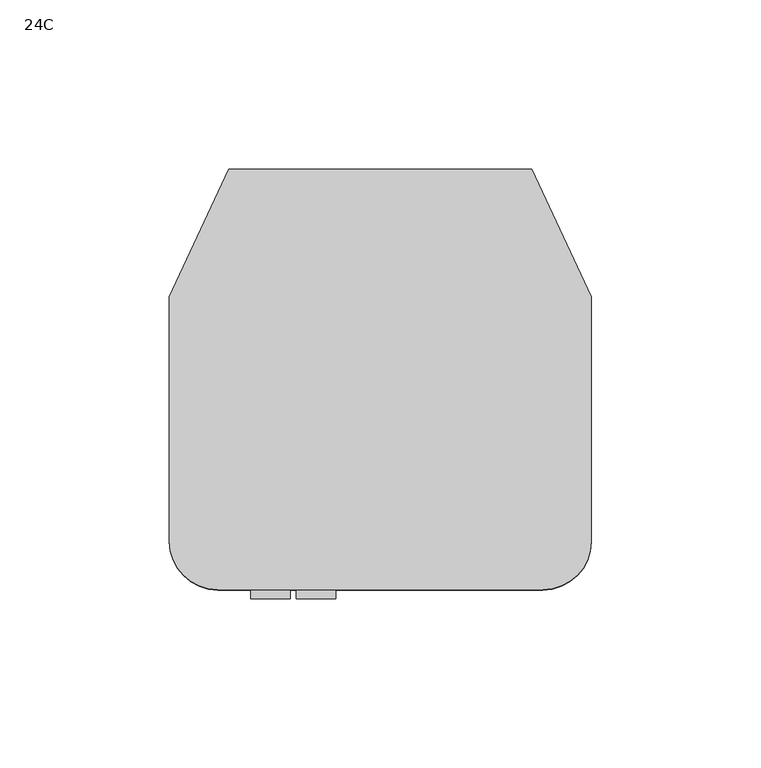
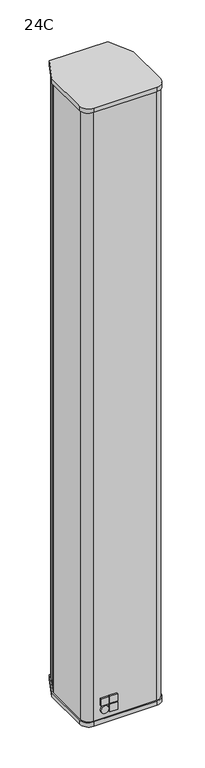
"""IFC4 building model written with IfcOpenShell, lengths in millimetres: proxy geometry, d&b xC-Series 24C Column : 24C."""

import ifcopenshell
import ifcopenshell.guid

model = None  # the IFC model being written
_history = None  # IfcOwnerHistory: only IFC2X3 demands one
_inside = {}  # id of a spatial element -> (the spatial element, [elements in it])
_under = {}  # id of a project, library or spatial element -> (it, [spatial elements below it])
_declared = {}  # id of a project -> (the project, [libraries it declares])
_typed = {}  # id of a type object -> (the type object, [elements of that type])
_made_of = {}  # id of a material, layer set ... -> (it, [elements and type objects made of it])


def new_model(schema):
    """Start an empty IFC model of exactly this schema.

    Asked for "IFC4X3", IfcOpenShell would pick the latest addendum, in which some entities
    have other attributes; the version numbers below select the first issue.
    IFC2X3 requires an IfcOwnerHistory on every rooted entity: one is made here for all.
    """
    global model, _history
    if schema == "IFC4X3":
        model = ifcopenshell.file(schema_version=(4, 3, 0, 0))
    else:
        model = ifcopenshell.file(schema=schema)
    _inside.clear()
    _under.clear()
    _declared.clear()
    _typed.clear()
    _made_of.clear()
    _history = None
    if model.schema == "IFC2X3":
        org = make("IfcOrganization", Name="unknown")
        user = make(
            "IfcPersonAndOrganization",
            ThePerson=make("IfcPerson", FamilyName="unknown"),
            TheOrganization=org,
        )
        app = make(
            "IfcApplication",
            ApplicationDeveloper=org,
            Version="unknown",
            ApplicationFullName="unknown",
            ApplicationIdentifier="unknown",
        )
        _history = make(
            "IfcOwnerHistory",
            OwningUser=user,
            OwningApplication=app,
            ChangeAction="ADDED",
            CreationDate=0,
        )
    return model


def make(cls, **values):
    """One entity of the class cls with the attributes given. An attribute that is None is left unset."""
    return model.create_entity(
        cls, **{name: value for name, value in values.items() if value is not None}
    )


def rooted(cls, **values):
    """An entity with a GlobalId (a new one), such as an element, a storey or a relation."""
    return make(cls, GlobalId=ifcopenshell.guid.new(), OwnerHistory=_history, **values)


def si_unit(unit_type, name, prefix=None):
    """IfcSIUnit, for example si_unit("LENGTHUNIT", "METRE", prefix="MILLI")."""
    return make("IfcSIUnit", UnitType=unit_type, Prefix=prefix, Name=name)


def assignment(units):
    """IfcUnitAssignment: the units of a project."""
    return None if units is None else make("IfcUnitAssignment", Units=units)


def point(xyz):
    """IfcCartesianPoint."""
    return None if xyz is None else make("IfcCartesianPoint", Coordinates=xyz)


def direction(xyz):
    """IfcDirection."""
    return None if xyz is None else make("IfcDirection", DirectionRatios=xyz)


def frame(location, z_axis=None, x_axis=None):
    """IfcAxis2Placement3D, a coordinate frame: its origin and axes. An axis left out is left unset."""
    return make(
        "IfcAxis2Placement3D",
        Location=point(location),
        Axis=direction(z_axis),
        RefDirection=direction(x_axis),
    )


def frame_2d(location, x_axis=None):
    """IfcAxis2Placement2D, a coordinate frame in the plane: its origin and x axis."""
    return make(
        "IfcAxis2Placement2D", Location=point(location), RefDirection=direction(x_axis)
    )


def origin():
    """The frame at (0, 0, 0) with its axes left unset."""
    return frame((0.0, 0.0, 0.0))


def place(relative_to, where):
    """IfcLocalPlacement: puts the frame where relative to a parent placement (None: the world)."""
    return make(
        "IfcLocalPlacement", PlacementRelTo=relative_to, RelativePlacement=where
    )


def context(
    kind, dimensions, precision=None, world=None, true_north=None, identifier=None
):
    """IfcGeometricRepresentationContext, for example the 3D "Model" context."""
    return make(
        "IfcGeometricRepresentationContext",
        ContextIdentifier=identifier,
        ContextType=kind,
        CoordinateSpaceDimension=dimensions,
        Precision=precision,
        WorldCoordinateSystem=world,
        TrueNorth=true_north,
    )


def project(units=None, contexts=None):
    """IfcProject with its units and contexts."""
    return rooted(
        "IfcProject",
        Name="project",
        RepresentationContexts=contexts,
        UnitsInContext=assignment(units),
    )


def spatial(cls, under=None, at=None, **own):
    """A site, building, storey or space (cls), placed at a placement, below another one or the project."""
    s = rooted(cls, ObjectPlacement=at, **own)
    if under is not None:
        _under.setdefault(under.id(), (under, []))[1].append(s)
    return s


def polyline(points):
    """IfcPolyline through the points."""
    return make("IfcPolyline", Points=[point(p) for p in points])


def circle_curve(where, radius):
    """IfcCircle in the frame where."""
    return make("IfcCircle", Position=where, Radius=radius)


def trimmed(basis, trim1, trim2, sense, master):
    """IfcTrimmedCurve: the piece of a basis curve between two trims."""
    return make(
        "IfcTrimmedCurve",
        BasisCurve=basis,
        Trim1=trim1,
        Trim2=trim2,
        SenseAgreement=sense,
        MasterRepresentation=master,
    )


def segment(curve, same_sense, transition):
    """IfcCompositeCurveSegment."""
    return make(
        "IfcCompositeCurveSegment",
        Transition=transition,
        SameSense=same_sense,
        ParentCurve=curve,
    )


def composite_curve(segments, self_intersect=None):
    """IfcCompositeCurve: segments joined end to end."""
    return make("IfcCompositeCurve", Segments=segments, SelfIntersect=self_intersect)


def outline(outer, holes=None, kind="AREA"):
    """IfcArbitraryClosedProfileDef: a profile drawn as a closed curve; with holes, ...WithVoids."""
    if holes is None:
        return make("IfcArbitraryClosedProfileDef", ProfileType=kind, OuterCurve=outer)
    return make(
        "IfcArbitraryProfileDefWithVoids",
        ProfileType=kind,
        OuterCurve=outer,
        InnerCurves=holes,
    )


def extrude(swept, where, along, depth):
    """IfcExtrudedAreaSolid: the profile swept, set in the frame where, extruded along a direction by depth."""
    return make(
        "IfcExtrudedAreaSolid",
        SweptArea=swept,
        Position=where,
        ExtrudedDirection=direction(along),
        Depth=depth,
    )


def shape(context_of_items, identifier, shape_type, items):
    """IfcShapeRepresentation: the items that make up one representation, for example the "Body"."""
    return make(
        "IfcShapeRepresentation",
        ContextOfItems=context_of_items,
        RepresentationIdentifier=identifier,
        RepresentationType=shape_type,
        Items=items,
    )


def source(mapping_origin, context_of_items, identifier, shape_type, items):
    """IfcRepresentationMap: a shape defined once, which mapped items show again and again."""
    return make(
        "IfcRepresentationMap",
        MappingOrigin=mapping_origin,
        MappedRepresentation=shape(context_of_items, identifier, shape_type, items),
    )


def transform(
    local_origin,
    x_axis=None,
    y_axis=None,
    z_axis=None,
    scale=None,
    scale2=None,
    scale3=None,
    uniform=True,
):
    """IfcCartesianTransformationOperator3D, or its non-uniform kind. x_axis, y_axis, z_axis: its Axis1, 2, 3."""
    if uniform:
        return make(
            "IfcCartesianTransformationOperator3D",
            Axis1=direction(x_axis),
            Axis2=direction(y_axis),
            LocalOrigin=point(local_origin),
            Scale=scale,
            Axis3=direction(z_axis),
        )
    return make(
        "IfcCartesianTransformationOperator3DnonUniform",
        Axis1=direction(x_axis),
        Axis2=direction(y_axis),
        LocalOrigin=point(local_origin),
        Scale=scale,
        Axis3=direction(z_axis),
        Scale2=scale2,
        Scale3=scale3,
    )


def mapped(mapping_source, mapping_target):
    """IfcMappedItem: shows the shape of a source again, moved by a transform."""
    return make(
        "IfcMappedItem", MappingSource=mapping_source, MappingTarget=mapping_target
    )


def made_of(thing, what):
    """Note that an element or type object is made of a material, layer set ...; save() writes the relation."""
    if what is not None:
        _made_of.setdefault(what.id(), (what, []))[1].append(thing)
    return thing


def element(
    cls,
    number,
    at=None,
    inside=None,
    cuts=None,
    type_object=None,
    material=None,
    context=None,
    identifier="Body",
    shape_type=None,
    held_by="IfcProductDefinitionShape",
    body=None,
    shapes=None,
    **own,
):
    """One element of the class cls, such as IfcWall. Its Tag is "e" and its number.

    at: its placement. inside: the storey or other place that contains it. cuts: it is an
    opening in that element (IfcRelVoidsElement). A single representation is given by context,
    identifier, shape_type and body (its items); several are given by shapes. held_by: the class
    of the entity that holds the representations. save() writes the other relations.
    """
    e = rooted(cls, Tag="e%d" % number, ObjectPlacement=at, **own)
    if body is not None:
        shapes = [shape(context, identifier, shape_type, body)]
    if shapes is not None:
        e.Representation = make(held_by, Representations=shapes)
    if inside is not None:
        _inside.setdefault(inside.id(), (inside, []))[1].append(e)
    if cuts is not None:
        rooted(
            "IfcRelVoidsElement", RelatingBuildingElement=cuts, RelatedOpeningElement=e
        )
    if type_object is not None:
        _typed.setdefault(type_object.id(), (type_object, []))[1].append(e)
    return made_of(e, material)


def aggregate(whole, parts):
    """IfcRelAggregates: a whole, such as a stair, and the parts it consists of."""
    return rooted("IfcRelAggregates", RelatingObject=whole, RelatedObjects=parts)


def save(model, path):
    """Write the relations noted so far, then the file.

    IfcRelAggregates (storeys below a building ...), IfcRelContainedInSpatialStructure (elements
    in a storey), IfcRelDefinesByType, IfcRelAssociatesMaterial and IfcRelDeclares: one each for
    every whole, place, type object, material and project.
    """
    for whole, parts in _under.values():
        aggregate(whole, parts)
    for where, things in _inside.values():
        rooted(
            "IfcRelContainedInSpatialStructure",
            RelatedElements=things,
            RelatingStructure=where,
        )
    for kind, things in _typed.values():
        rooted("IfcRelDefinesByType", RelatedObjects=things, RelatingType=kind)
    for what, things in _made_of.values():
        rooted("IfcRelAssociatesMaterial", RelatedObjects=things, RelatingMaterial=what)
    for by, libraries in _declared.values():
        rooted("IfcRelDeclares", RelatingContext=by, RelatedDefinitions=libraries)
    model.write(path)


def plane_surface(at):
    """IfcPlane: the flat surface through the origin of the frame at, square to its z axis."""
    return make("IfcPlane", Position=at)


def cylinder_surface(at, radius):
    """IfcCylindricalSurface: all points at the distance radius from the z axis of the frame at."""
    return make("IfcCylindricalSurface", Position=at, Radius=radius)


def revolved_surface(curve, axis_point, axis_direction):
    """IfcSurfaceOfRevolution: the curve turned about the line through axis_point along axis_direction."""
    return make(
        "IfcSurfaceOfRevolution",
        SweptCurve=make("IfcArbitraryOpenProfileDef", ProfileType="CURVE", Curve=curve),
        AxisPosition=make("IfcAxis1Placement", Location=point(axis_point), Axis=direction(axis_direction)),
    )


def advanced_brep(points, edges, surfaces, faces):
    """IfcAdvancedBrep: a solid bounded by faces that lie on surfaces and meet in shared edges.

    An edge is (start, end): straight between two places in points (the first is 0);
    or (start, end, curve); or (start, end, curve, False) where it runs against its curve.
    A face is (place in surfaces, loops), or (place, loops, False) where it looks against
    its surface's normal. A loop lists edges by number (the first is 1), with a minus sign
    where the edge is run from its end to its start. The first loop is the outer one.
    """
    corners = [point(p) for p in points]
    vertices = [make("IfcVertexPoint", VertexGeometry=c) for c in corners]
    made = []
    for start, end, *more in edges:
        made.append(
            make(
                "IfcEdgeCurve",
                EdgeStart=vertices[start],
                EdgeEnd=vertices[end],
                EdgeGeometry=more[0] if more else make("IfcPolyline", Points=[corners[start], corners[end]]),
                SameSense=more[1] if len(more) > 1 else True,
            )
        )
    hull = []
    for where, loops, *sense in faces:
        bounds = []
        for j, loop in enumerate(loops):
            ring = [make("IfcOrientedEdge", EdgeElement=made[abs(k) - 1], Orientation=k > 0) for k in loop]
            bounds.append(
                make(
                    "IfcFaceOuterBound" if j == 0 else "IfcFaceBound",
                    Bound=make("IfcEdgeLoop", EdgeList=ring),
                    Orientation=True,
                )
            )
        hull.append(make("IfcAdvancedFace", Bounds=bounds, FaceSurface=surfaces[where], SameSense=sense[0] if sense else True))
    return make("IfcAdvancedBrep", Outer=make("IfcClosedShell", CfsFaces=hull))


def proxy_24c_96e45ba7(model_context):
    return source(origin(), model_context, "Body", "SolidModel", [
        extrude(outline(polyline([(45.5615282, 50.1303765), (47.8272976, 51.1869221), (54.1607261, 37.604841), (51.8949566, 36.5482954), (45.5615282, 50.1303765)])), frame((0.0, 0.0, -493.0), z_axis=(0.0, 0.0, 1.0), x_axis=(1.0, 0.0, 0.0)), (0.0, 0.0, 1.0), 986.0),
        extrude(outline(polyline([(-45.5615282, 50.1303765), (-51.8949566, 36.5482954), (-54.1607261, 37.604841), (-47.8272976, 51.1869221), (-45.5615282, 50.1303765)])), frame((0.0, 0.0, -493.0), z_axis=(0.0, 0.0, 1.0), x_axis=(1.0, 0.0, 0.0)), (0.0, 0.0, 1.0), 986.0),
        advanced_brep(
        [(-32.05, 60.25, 493.0), (-43.601115, 60.25, 493.0), (-47.8272976, 51.1869221, 493.0), (-45.5615282, 50.1303765, 493.0), (-51.8949566, 36.5482954, 493.0), (-54.1607261, 37.604841, 493.0), (-60.5, 24.0102242, 493.0), (-60.5, -47.962132, 493.0), (-48.212132, -60.25, 493.0), (48.212132, -60.25, 493.0), (60.5, -47.962132, 493.0), (60.5, 24.0102242, 493.0), (54.1607261, 37.604841, 493.0), (51.8949566, 36.5482954, 493.0), (45.5615282, 50.1303765, 493.0), (47.8272976, 51.1869221, 493.0), (43.601115, 60.25, 493.0), (32.05, 60.25, 493.0), (32.05, 58.0499992, 493.0), (36.2500003, 58.0499992, 493.0), (36.2500003, 55.2955341, 493.0), (32.2044662, 51.25, 493.0), (23.7999989, 51.25, 493.0), (19.7499997, 55.2999992, 493.0), (19.7499997, 58.0499992, 493.0), (23.95, 58.0499992, 493.0), (23.95, 60.25, 493.0), (15.0, 60.25, 493.0), (15.0, 50.25, 493.0), (-15.0, 50.25, 493.0), (-15.0, 60.25, 493.0), (-23.95, 60.25, 493.0), (-23.95, 58.0499992, 493.0), (-19.7499997, 58.0499992, 493.0), (-19.7499997, 55.2999992, 493.0), (-23.7999989, 51.25, 493.0), (-32.2044662, 51.25, 493.0), (-36.2500003, 55.2955341, 493.0), (-36.2500003, 58.0499992, 493.0), (-32.05, 58.0499992, 493.0), (-32.05, 60.25, -493.0), (-32.05, 58.0499992, -493.0), (-36.2500003, 58.0499992, -493.0), (-36.2500003, 55.2955341, -493.0), (-32.2044662, 51.25, -493.0), (-23.7999989, 51.25, -493.0), (-19.7499997, 55.2999992, -493.0), (-19.7499997, 58.0499992, -493.0), (-23.95, 58.0499992, -493.0), (-23.95, 60.25, -493.0), (23.95, 60.25, -493.0), (23.95, 58.0499992, -493.0), (19.7499997, 58.0499992, -493.0), (19.7499997, 55.2999992, -493.0), (23.7999989, 51.25, -493.0), (32.2044662, 51.25, -493.0), (36.2500003, 55.2955341, -493.0), (36.2500003, 58.0499992, -493.0), (32.05, 58.0499992, -493.0), (32.05, 60.25, -493.0), (43.601115, 60.25, -493.0), (47.8272976, 51.1869221, -493.0), (45.5615282, 50.1303765, -493.0), (51.8949566, 36.5482954, -493.0), (54.1607261, 37.604841, -493.0), (60.5, 24.0102242, -493.0), (60.5, -47.962132, -493.0), (48.212132, -60.25, -493.0), (-48.212132, -60.25, -493.0), (-60.5, -47.962132, -493.0), (-60.5, 24.0102242, -493.0), (-54.1607261, 37.604841, -493.0), (-51.8949566, 36.5482954, -493.0), (-45.5615282, 50.1303765, -493.0), (-47.8272976, 51.1869221, -493.0), (-43.601115, 60.25, -493.0), (-15.0, 60.25, 461.5), (-12.5, 60.25, 459.0), (12.5, 60.25, 459.0), (15.0, 60.25, 461.5), (-3.375, 60.25, -263.5), (-3.375, 60.25, -365.0), (3.375, 60.25, -365.0), (3.375, 60.25, -263.5), (15.0, 50.25, 461.5), (12.5, 50.25, 459.0), (-12.5, 50.25, 459.0), (-15.0, 50.25, 461.5), (-3.375, 57.0, -365.0), (-3.375, 57.0, -263.5), (3.375, 57.0, -263.5), (3.375, 57.0, -365.0)],
        [
            (0, 1),
            (1, 2),
            (2, 3),
            (3, 4),
            (4, 5),
            (5, 6),
            (6, 7),
            (7, 8, circle_curve(frame((-48.212132, -47.962132, 493.0), z_axis=(0.0, 0.0, 1.0), x_axis=(-1.0, 0.0, 0.0)), 12.287868)),
            (8, 9),
            (9, 10, circle_curve(frame((48.212132, -47.962132, 493.0), z_axis=(0.0, 0.0, 1.0), x_axis=(-1.0, 0.0, 0.0)), 12.287868)),
            (10, 11),
            (11, 12),
            (12, 13),
            (13, 14),
            (14, 15),
            (15, 16),
            (16, 17),
            (17, 18),
            (18, 19),
            (19, 20),
            (20, 21),
            (21, 22),
            (22, 23),
            (23, 24),
            (24, 25),
            (25, 26),
            (26, 27),
            (27, 28),
            (28, 29),
            (29, 30),
            (30, 31),
            (31, 32),
            (32, 33),
            (33, 34),
            (34, 35),
            (35, 36),
            (36, 37),
            (37, 38),
            (38, 39),
            (39, 0),
            (40, 41),
            (41, 42),
            (42, 43),
            (43, 44),
            (44, 45),
            (45, 46),
            (46, 47),
            (47, 48),
            (48, 49),
            (49, 50),
            (50, 51),
            (51, 52),
            (52, 53),
            (53, 54),
            (54, 55),
            (55, 56),
            (56, 57),
            (57, 58),
            (58, 59),
            (59, 60),
            (60, 61),
            (61, 62),
            (62, 63),
            (63, 64),
            (64, 65),
            (65, 66),
            (66, 67, circle_curve(frame((48.212132, -47.962132, -493.0), z_axis=(0.0, 0.0, -1.0), x_axis=(-1.0, 0.0, 0.0)), 12.287868)),
            (67, 68),
            (68, 69, circle_curve(frame((-48.212132, -47.962132, -493.0), z_axis=(0.0, 0.0, -1.0), x_axis=(-1.0, 0.0, 0.0)), 12.287868)),
            (69, 70),
            (70, 71),
            (71, 72),
            (72, 73),
            (73, 74),
            (74, 75),
            (75, 40),
            (0, 40),
            (75, 1),
            (6, 70),
            (69, 7),
            (68, 8),
            (67, 9),
            (66, 10),
            (65, 11),
            (64, 12),
            (16, 60),
            (59, 17),
            (58, 18),
            (57, 19),
            (56, 20),
            (55, 21),
            (54, 22),
            (53, 23),
            (52, 24),
            (51, 25),
            (50, 26),
            (49, 31),
            (30, 76),
            (76, 77, circle_curve(frame((-12.5, 60.25, 461.5), z_axis=(0.0, -1.0, 0.0), x_axis=(-1.0, 0.0, 0.0)), 2.5)),
            (77, 78),
            (78, 79, circle_curve(frame((12.5, 60.25, 461.5), z_axis=(0.0, -1.0, 0.0), x_axis=(-1.0, 0.0, 0.0)), 2.5)),
            (79, 27),
            (80, 81),
            (81, 82, circle_curve(frame((0.0, 60.25, -365.0), z_axis=(0.0, -1.0, 0.0), x_axis=(-1.0, 0.0, 0.0)), 3.375)),
            (82, 83),
            (83, 80, circle_curve(frame((0.0, 60.25, -263.5), z_axis=(0.0, -1.0, 0.0), x_axis=(-1.0, 0.0, 0.0)), 3.375)),
            (48, 32),
            (47, 33),
            (46, 34),
            (45, 35),
            (44, 36),
            (43, 37),
            (42, 38),
            (41, 39),
            (84, 85, circle_curve(frame((12.5, 50.25, 461.5), z_axis=(0.0, 1.0, 0.0), x_axis=(-1.0, 0.0, 0.0)), 2.5)),
            (85, 86),
            (86, 87, circle_curve(frame((-12.5, 50.25, 461.5), z_axis=(0.0, 1.0, 0.0), x_axis=(-1.0, 0.0, 0.0)), 2.5)),
            (87, 29),
            (28, 84),
            (84, 79),
            (78, 85),
            (77, 86),
            (76, 87),
            (88, 89),
            (89, 90, circle_curve(frame((0.0, 57.0, -263.5), z_axis=(0.0, 1.0, 0.0), x_axis=(-1.0, 0.0, 0.0)), 3.375)),
            (90, 91),
            (91, 88, circle_curve(frame((0.0, 57.0, -365.0), z_axis=(0.0, 1.0, 0.0), x_axis=(-1.0, 0.0, 0.0)), 3.375)),
            (88, 81),
            (80, 89),
            (83, 90),
            (82, 91),
            (63, 13),
            (62, 14),
            (61, 15),
            (74, 2),
            (73, 3),
            (72, 4),
            (71, 5),
        ],
        [
            plane_surface(frame((-42.0084394, 60.25, 493.0), z_axis=(0.0, 0.0, 1.0), x_axis=(-1.0, 0.0, 0.0))),
            plane_surface(frame((-42.0084394, 60.25, -493.0), z_axis=(0.0, 0.0, -1.0), x_axis=(1.0, 0.0, 0.0))),
            plane_surface(frame((-32.05, 60.25, 493.0), z_axis=(0.0, 1.0, 0.0), x_axis=(0.0, 0.0, -1.0))),
            plane_surface(frame((-60.5, 24.0102242, 493.0), z_axis=(-1.0, 0.0, 0.0), x_axis=(0.0, 0.0, -1.0))),
            cylinder_surface(frame((-48.212132, -47.962132, -493.0), z_axis=(0.0, 0.0, 1.0), x_axis=(-1.0, 0.0, 0.0)), 12.287868),
            plane_surface(frame((-48.212132, -60.25, 493.0), z_axis=(0.0, -1.0, 0.0), x_axis=(0.0, 0.0, -1.0))),
            cylinder_surface(frame((48.212132, -47.962132, -493.0), z_axis=(0.0, 0.0, 1.0), x_axis=(-1.0, 0.0, 0.0)), 12.287868),
            plane_surface(frame((60.5, -47.962132, 493.0), z_axis=(1.0, 0.0, 0.0), x_axis=(0.0, 0.0, -1.0))),
            plane_surface(frame((60.5, 24.0102242, 493.0), z_axis=(0.9063077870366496, 0.4226182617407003, 0.0), x_axis=(0.0, 0.0, -1.0))),
            plane_surface(frame((43.601115, 60.25, 493.0), z_axis=(0.0, 1.0, 0.0), x_axis=(0.0, 0.0, -1.0))),
            plane_surface(frame((32.05, 60.25, 493.0), z_axis=(-1.0, 0.0, 0.0), x_axis=(0.0, 0.0, -1.0))),
            plane_surface(frame((32.05, 58.0499992, 493.0), z_axis=(0.0, -1.0, 0.0), x_axis=(0.0, 0.0, -1.0))),
            plane_surface(frame((36.2500003, 58.0499992, 493.0), z_axis=(-1.0, 0.0, 0.0), x_axis=(0.0, 0.0, -1.0))),
            plane_surface(frame((36.2500003, 55.2955341, 493.0), z_axis=(-0.7071067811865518, 0.7071067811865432, 0.0), x_axis=(0.0, 0.0, -1.0))),
            plane_surface(frame((32.2044662, 51.25, 493.0), z_axis=(0.0, 1.0, 0.0), x_axis=(0.0, 0.0, -1.0))),
            plane_surface(frame((23.7999989, 51.25, 493.0), z_axis=(0.7071067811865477, 0.7071067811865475, 0.0), x_axis=(0.0, 0.0, -1.0))),
            plane_surface(frame((19.7499997, 55.2999992, 493.0), z_axis=(1.0, 0.0, 0.0), x_axis=(0.0, 0.0, -1.0))),
            plane_surface(frame((19.7499997, 58.0499992, 493.0), z_axis=(0.0, -1.0, 0.0), x_axis=(0.0, 0.0, -1.0))),
            plane_surface(frame((23.95, 58.0499992, 493.0), z_axis=(1.0, 0.0, 0.0), x_axis=(0.0, 0.0, -1.0))),
            plane_surface(frame((23.95, 60.25, 493.0), z_axis=(0.0, 1.0, 0.0), x_axis=(0.0, 0.0, -1.0))),
            plane_surface(frame((-23.95, 60.25, 493.0), z_axis=(-1.0, 0.0, 0.0), x_axis=(0.0, 0.0, -1.0))),
            plane_surface(frame((-23.95, 58.0499992, 493.0), z_axis=(0.0, -1.0, 0.0), x_axis=(0.0, 0.0, -1.0))),
            plane_surface(frame((-19.7499997, 58.0499992, 493.0), z_axis=(-1.0, 0.0, 0.0), x_axis=(0.0, 0.0, -1.0))),
            plane_surface(frame((-19.7499997, 55.2999992, 493.0), z_axis=(-0.7071067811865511, 0.707106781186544, 0.0), x_axis=(0.0, 0.0, -1.0))),
            plane_surface(frame((-23.7999989, 51.25, 493.0), z_axis=(0.0, 1.0, 0.0), x_axis=(0.0, 0.0, -1.0))),
            plane_surface(frame((-32.2044662, 51.25, 493.0), z_axis=(0.7071067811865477, 0.7071067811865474, 0.0), x_axis=(0.0, 0.0, -1.0))),
            plane_surface(frame((-36.2500003, 55.2955341, 493.0), z_axis=(1.0, 0.0, 0.0), x_axis=(0.0, 0.0, -1.0))),
            plane_surface(frame((-36.2500003, 58.0499992, 493.0), z_axis=(0.0, -1.0, 0.0), x_axis=(0.0, 0.0, -1.0))),
            plane_surface(frame((-32.05, 58.0499992, 493.0), z_axis=(1.0, 0.0, 0.0), x_axis=(0.0, 0.0, -1.0))),
            plane_surface(frame((10.0, 50.25, 461.5), z_axis=(0.0, 1.0, 0.0), x_axis=(0.0, 0.0, -1.0))),
            revolved_surface(polyline([(10.0, 60.25, 461.5), (10.0, 50.25, 461.5)]), (12.5, 50.25, 461.5), (0.0, 1.0, 0.0)),
            plane_surface(frame((12.5, 62.0, 459.0), z_axis=(0.0, 0.0, 1.0), x_axis=(0.0, -1.0, 0.0))),
            revolved_surface(polyline([(-15.0, 60.25, 461.5), (-15.0, 50.25, 461.5)]), (-12.5, 50.25, 461.5), (0.0, 1.0, 0.0)),
            plane_surface(frame((-15.0, 62.0, 461.5), z_axis=(1.0, 0.0, 0.0), x_axis=(0.0, -1.0, 0.0))),
            plane_surface(frame((15.0, 62.0, 493.0), z_axis=(-1.0, 0.0, 0.0), x_axis=(0.0, -1.0, 0.0))),
            plane_surface(frame((-3.375, 57.0, -286.8896769), z_axis=(0.0, 1.0, 0.0), x_axis=(0.0, 0.0, -1.0))),
            plane_surface(frame((-3.375, 62.0, -365.0), z_axis=(1.0, 0.0, 0.0), x_axis=(0.0, -1.0, 0.0))),
            revolved_surface(polyline([(-3.375, 60.25, -263.5), (-3.375, 57.0, -263.5)]), (0.0, 57.0, -263.5), (0.0, 1.0, 0.0)),
            plane_surface(frame((3.375, 62.0, -263.5), z_axis=(-1.0, 0.0, 0.0), x_axis=(0.0, -1.0, 0.0))),
            revolved_surface(polyline([(-3.375, 60.25, -365.0), (-3.375, 57.0, -365.0)]), (0.0, 57.0, -365.0), (0.0, 1.0, 0.0)),
            plane_surface(frame((54.1607261, 37.604841, 493.0), z_axis=(-0.4226182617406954, 0.9063077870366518, 0.0), x_axis=(0.0, 0.0, -1.0))),
            plane_surface(frame((51.8949566, 36.5482954, 493.0), z_axis=(0.906307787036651, 0.4226182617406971, 0.0), x_axis=(0.0, 0.0, -1.0))),
            plane_surface(frame((45.5615282, 50.1303765, 493.0), z_axis=(0.42261826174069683, -0.9063077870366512, 0.0), x_axis=(0.0, 0.0, -1.0))),
            plane_surface(frame((47.8272976, 51.1869221, 493.0), z_axis=(0.9063077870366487, 0.4226182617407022, 0.0), x_axis=(0.0, 0.0, -1.0))),
            plane_surface(frame((-43.601115, 60.25, 493.0), z_axis=(-0.9063077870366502, 0.42261826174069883, 0.0), x_axis=(0.0, 0.0, -1.0))),
            plane_surface(frame((-47.8272976, 51.1869221, 493.0), z_axis=(-0.4226182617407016, -0.906307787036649, 0.0), x_axis=(0.0, 0.0, -1.0))),
            plane_surface(frame((-45.5615282, 50.1303765, 493.0), z_axis=(-0.9063077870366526, 0.4226182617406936, 0.0), x_axis=(0.0, 0.0, -1.0))),
            plane_surface(frame((-51.8949566, 36.5482954, 493.0), z_axis=(0.42261826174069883, 0.9063077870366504, 0.0), x_axis=(0.0, 0.0, -1.0))),
            plane_surface(frame((-54.1607261, 37.604841, 493.0), z_axis=(-0.9063077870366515, 0.4226182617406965, 0.0), x_axis=(0.0, 0.0, -1.0))),
        ],
        [
            (0, [[1, 2, 3, 4, 5, 6, 7, 8, 9, 10, 11, 12, 13, 14, 15, 16, 17, 18, 19, 20, 21, 22, 23, 24, 25, 26, 27, 28, 29, 30, 31, 32, 33, 34, 35, 36, 37, 38, 39, 40]]),
            (1, [[41, 42, 43, 44, 45, 46, 47, 48, 49, 50, 51, 52, 53, 54, 55, 56, 57, 58, 59, 60, 61, 62, 63, 64, 65, 66, 67, 68, 69, 70, 71, 72, 73, 74, 75, 76]]),
            (2, [[-1, 77, -76, 78]]),
            (3, [[-7, 79, -70, 80]]),
            (4, [[-8, -80, -69, 81]]),
            (5, [[-9, -81, -68, 82]]),
            (6, [[-10, -82, -67, 83]]),
            (7, [[-11, -83, -66, 84]]),
            (8, [[-12, -84, -65, 85]]),
            (9, [[-17, 86, -60, 87]]),
            (10, [[-18, -87, -59, 88]]),
            (11, [[-19, -88, -58, 89]]),
            (12, [[-20, -89, -57, 90]]),
            (13, [[-21, -90, -56, 91]]),
            (14, [[-22, -91, -55, 92]]),
            (15, [[-23, -92, -54, 93]]),
            (16, [[-24, -93, -53, 94]]),
            (17, [[-25, -94, -52, 95]]),
            (18, [[-26, -95, -51, 96]]),
            (19, [[-50, 97, -31, 98, 99, 100, 101, 102, -27, -96], [103, 104, 105, 106]]),
            (20, [[-32, -97, -49, 107]]),
            (21, [[-33, -107, -48, 108]]),
            (22, [[-34, -108, -47, 109]]),
            (23, [[-35, -109, -46, 110]]),
            (24, [[-36, -110, -45, 111]]),
            (25, [[-37, -111, -44, 112]]),
            (26, [[-38, -112, -43, 113]]),
            (27, [[-39, -113, -42, 114]]),
            (28, [[-40, -114, -41, -77]]),
            (29, [[115, 116, 117, 118, -29, 119]]),
            (30, [[-115, 120, -101, 121]]),
            (31, [[-116, -121, -100, 122]]),
            (32, [[-117, -122, -99, 123]]),
            (33, [[-118, -123, -98, -30]]),
            (34, [[-119, -28, -102, -120]]),
            (35, [[124, 125, 126, 127]]),
            (36, [[-124, 128, -103, 129]]),
            (37, [[-125, -129, -106, 130]]),
            (38, [[-126, -130, -105, 131]]),
            (39, [[-127, -131, -104, -128]]),
            (40, [[-13, -85, -64, 132]]),
            (41, [[-14, -132, -63, 133]]),
            (42, [[-15, -133, -62, 134]]),
            (43, [[-16, -134, -61, -86]]),
            (44, [[-2, -78, -75, 135]]),
            (45, [[-3, -135, -74, 136]]),
            (46, [[-4, -136, -73, 137]]),
            (47, [[-5, -137, -72, 138]]),
            (48, [[-6, -138, -71, -79]]),
        ],
    ),
        extrude(outline(polyline([(-38.212132, -62.0), (-26.5454654, -62.0), (-26.5454654, -64.5), (-38.212132, -64.5), (-38.212132, -62.0)])), frame((0.0, 0.0, -469.6666667), z_axis=(0.0, 0.0, 1.0), x_axis=(1.0, 0.0, 0.0)), (0.0, 0.0, 1.0), 11.6666667),
        extrude(outline(polyline([(-24.8787987, -62.0), (-13.212132, -62.0), (-13.212132, -64.5), (-24.8787987, -64.5), (-24.8787987, -62.0)])), frame((0.0, 0.0, -469.6666667), z_axis=(0.0, 0.0, 1.0), x_axis=(1.0, 0.0, 0.0)), (0.0, 0.0, 1.0), 11.6666667),
        extrude(outline(polyline([(-24.8787987, -62.0), (-13.212132, -62.0), (-13.212132, -64.5), (-24.8787987, -64.5), (-24.8787987, -62.0)])), frame((0.0, 0.0, -483.0), z_axis=(0.0, 0.0, 1.0), x_axis=(1.0, 0.0, 0.0)), (0.0, 0.0, 1.0), 11.6666667),
        extrude(outline(composite_curve([segment(trimmed(circle_curve(frame_2d((-477.1666667, -32.3787987)), 5.8333333), [point((-477.1666667, -26.5454654))], [point((-477.1666667, -38.212132))], False, "CARTESIAN"), True, "CONTINUOUS"), segment(trimmed(circle_curve(frame_2d((-477.1666667, -32.3787987)), 5.8333333), [point((-477.1666667, -38.212132))], [point((-477.1666667, -26.5454654))], False, "CARTESIAN"), True, "CONTINUOUS")], self_intersect=False)), frame((0.0, -64.5, 0.0), z_axis=(0.0, 1.0, 0.0), x_axis=(0.0, 0.0, 1.0)), (0.0, 0.0, 1.0), 2.5),
        extrude(outline(composite_curve([segment(polyline([(44.715988, 62.0), (62.25, 24.3981899), (62.25, -47.75)]), True, "CONTINUOUS"), segment(trimmed(circle_curve(frame_2d((48.0, -47.75)), 14.25), [point((62.25, -47.75))], [point((48.0, -62.0))], False, "CARTESIAN"), True, "CONTINUOUS"), segment(polyline([(48.0, -62.0), (-48.0, -62.0)]), True, "CONTINUOUS"), segment(trimmed(circle_curve(frame_2d((-48.0, -47.75)), 14.25), [point((-48.0, -62.0))], [point((-62.25, -47.75))], False, "CARTESIAN"), True, "CONTINUOUS"), segment(polyline([(-62.25, -47.75), (-62.25, 24.3981899), (-44.715988, 62.0), (44.715988, 62.0)]), True, "CONTINUOUS")], self_intersect=False)), frame((0.0, 0.0, -500.0), z_axis=(0.0, 0.0, 1.0), x_axis=(1.0, 0.0, 0.0)), (0.0, 0.0, 1.0), 7.0),
        extrude(outline(composite_curve([segment(polyline([(44.715988, 62.0), (62.25, 24.3981899), (62.25, -47.75)]), True, "CONTINUOUS"), segment(trimmed(circle_curve(frame_2d((48.0, -47.75)), 14.25), [point((62.25, -47.75))], [point((48.0, -62.0))], False, "CARTESIAN"), True, "CONTINUOUS"), segment(polyline([(48.0, -62.0), (-48.0, -62.0)]), True, "CONTINUOUS"), segment(trimmed(circle_curve(frame_2d((-48.0, -47.75)), 14.25), [point((-48.0, -62.0))], [point((-62.25, -47.75))], False, "CARTESIAN"), True, "CONTINUOUS"), segment(polyline([(-62.25, -47.75), (-62.25, 24.3981899), (-44.715988, 62.0), (44.715988, 62.0)]), True, "CONTINUOUS")], self_intersect=False)), frame((0.0, 0.0, 493.0), z_axis=(0.0, 0.0, 1.0), x_axis=(1.0, 0.0, 0.0)), (0.0, 0.0, 1.0), 7.0),
    ])


if __name__ == "__main__":
    model = new_model("IFC4")
    model_context = context("Model", 3, world=origin())
    ifc_project = project(units=[si_unit("LENGTHUNIT", "METRE", prefix="MILLI")], contexts=[model_context])
    site = spatial("IfcSite", under=ifc_project)
    building = spatial("IfcBuilding", under=site)
    placement = place(None, origin())
    proxy_24c_shape = proxy_24c_96e45ba7(model_context)
    element("IfcBuildingElementProxy", 1, Name="d&b xC-Series 24C Column : 24C", ObjectType="d&b xC-Series 24C Column : 24C", at=placement, inside=building, context=model_context, shape_type="MappedRepresentation", body=[
        mapped(proxy_24c_shape, transform((0.0, 0.0, 0.0), x_axis=(1.0, 0.0, 0.0), y_axis=(0.0, 1.0, 0.0), z_axis=(0.0, 0.0, 1.0))),
    ])
    save(model, "model.ifc")
